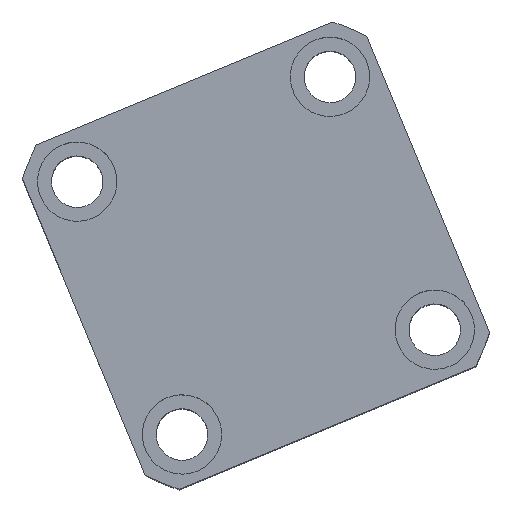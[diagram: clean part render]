
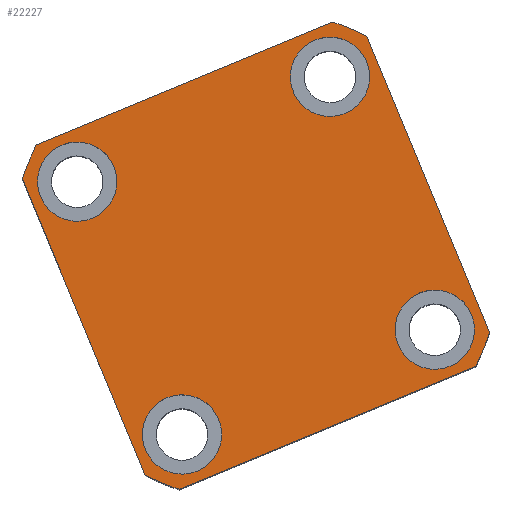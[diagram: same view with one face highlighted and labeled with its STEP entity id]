
A CAD part, top view. The second image highlights one B-rep face of the part: STEP entity #22227.
In plain terms, the highlighted planar face has unit normal (0, 0, 1) as drawn and (0, 0, -1) by its records, which use the part's own axes.
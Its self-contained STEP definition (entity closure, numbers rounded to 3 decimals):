
#268 = EDGE_CURVE ( 'NONE', #9698, #5699, #11622, .T. ) ;
#284 = DIRECTION ( 'NONE',  ( -1., 0., 0. ) ) ;
#306 = LINE ( 'NONE', #21022, #13489 ) ;
#328 = DIRECTION ( 'NONE',  ( 0., 0., -1. ) ) ;
#496 = VERTEX_POINT ( 'NONE', #9832 ) ;
#631 = FACE_BOUND ( 'NONE', #22385, .T. ) ;
#833 = ORIENTED_EDGE ( 'NONE', *, *, #5626, .F. ) ;
#910 = VERTEX_POINT ( 'NONE', #7131 ) ;
#1082 = AXIS2_PLACEMENT_3D ( 'NONE', #17287, #6984, #19045 ) ;
#1176 = ORIENTED_EDGE ( 'NONE', *, *, #19137, .F. ) ;
#1206 = EDGE_CURVE ( 'NONE', #20960, #14597, #21095, .T. ) ;
#1268 = VERTEX_POINT ( 'NONE', #3041 ) ;
#1287 = DIRECTION ( 'NONE',  ( -1., 0., 0. ) ) ;
#1688 = AXIS2_PLACEMENT_3D ( 'NONE', #5602, #17662, #7351 ) ;
#1712 = CARTESIAN_POINT ( 'NONE',  ( 0., 0., 0. ) ) ;
#1973 = ORIENTED_EDGE ( 'NONE', *, *, #11297, .F. ) ;
#2304 = AXIS2_PLACEMENT_3D ( 'NONE', #9824, #21885, #11540 ) ;
#2387 = CARTESIAN_POINT ( 'NONE',  ( -44.5, 34.5, 0. ) ) ;
#2741 = VERTEX_POINT ( 'NONE', #10255 ) ;
#2754 = CIRCLE ( 'NONE', #1688, 62. ) ;
#2811 = DIRECTION ( 'NONE',  ( 0., 0., 1. ) ) ;
#3035 = DIRECTION ( 'NONE',  ( 0., 0., -1. ) ) ;
#3041 = CARTESIAN_POINT ( 'NONE',  ( 44.5, 34.5, 0. ) ) ;
#3440 = DIRECTION ( 'NONE',  ( 1., 0., 0. ) ) ;
#3590 = VECTOR ( 'NONE', #8017, 1000. ) ;
#3785 = ORIENTED_EDGE ( 'NONE', *, *, #15414, .F. ) ;
#3936 = EDGE_LOOP ( 'NONE', ( #5573, #22117, #833, #4993, #16394, #16334, #3785, #4881 ) ) ;
#4137 = FACE_OUTER_BOUND ( 'NONE', #3936, .T. ) ;
#4155 = CARTESIAN_POINT ( 'NONE',  ( -34.5, -34.5, 0. ) ) ;
#4232 = CARTESIAN_POINT ( 'NONE',  ( 0., 0., 0. ) ) ;
#4455 = CARTESIAN_POINT ( 'NONE',  ( 47., 40.435, 0. ) ) ;
#4846 = AXIS2_PLACEMENT_3D ( 'NONE', #21971, #11621, #1287 ) ;
#4881 = ORIENTED_EDGE ( 'NONE', *, *, #22290, .F. ) ;
#4902 = ORIENTED_EDGE ( 'NONE', *, *, #14269, .F. ) ;
#4993 = ORIENTED_EDGE ( 'NONE', *, *, #18738, .F. ) ;
#5144 = CARTESIAN_POINT ( 'NONE',  ( 0., 0., 0. ) ) ;
#5573 = ORIENTED_EDGE ( 'NONE', *, *, #14535, .F. ) ;
#5602 = CARTESIAN_POINT ( 'NONE',  ( 0., 0., 0. ) ) ;
#5626 = EDGE_CURVE ( 'NONE', #14689, #9698, #9747, .T. ) ;
#5699 = VERTEX_POINT ( 'NONE', #4455 ) ;
#5901 = DIRECTION ( 'NONE',  ( -1., 0., 0. ) ) ;
#5977 = DIRECTION ( 'NONE',  ( 1., 0., 0. ) ) ;
#6289 = CARTESIAN_POINT ( 'NONE',  ( -47., 47., 0. ) ) ;
#6356 = VERTEX_POINT ( 'NONE', #11291 ) ;
#6663 = CARTESIAN_POINT ( 'NONE',  ( 47., 47., 0. ) ) ;
#6673 = VERTEX_POINT ( 'NONE', #8514 ) ;
#6744 = CIRCLE ( 'NONE', #1082, 10. ) ;
#6895 = DIRECTION ( 'NONE',  ( 1., 0., 0. ) ) ;
#6984 = DIRECTION ( 'NONE',  ( 0., 0., -1. ) ) ;
#7131 = CARTESIAN_POINT ( 'NONE',  ( -44.5, -34.5, 0. ) ) ;
#7315 = DIRECTION ( 'NONE',  ( 0., 0., -1. ) ) ;
#7351 = DIRECTION ( 'NONE',  ( 1., 0., 0. ) ) ;
#7502 = ORIENTED_EDGE ( 'NONE', *, *, #10056, .F. ) ;
#7714 = EDGE_LOOP ( 'NONE', ( #1973, #4902 ) ) ;
#8017 = DIRECTION ( 'NONE',  ( -1., 0., 0. ) ) ;
#8205 = AXIS2_PLACEMENT_3D ( 'NONE', #20964, #10618, #284 ) ;
#8413 = VERTEX_POINT ( 'NONE', #13732 ) ;
#8418 = EDGE_CURVE ( 'NONE', #6356, #910, #6744, .T. ) ;
#8514 = CARTESIAN_POINT ( 'NONE',  ( -40.435, -47., 0. ) ) ;
#8723 = FACE_BOUND ( 'NONE', #13499, .T. ) ;
#8873 = CIRCLE ( 'NONE', #9299, 10. ) ;
#8954 = DIRECTION ( 'NONE',  ( 1., 0., 0. ) ) ;
#8998 = ORIENTED_EDGE ( 'NONE', *, *, #22354, .F. ) ;
#9299 = AXIS2_PLACEMENT_3D ( 'NONE', #13349, #3035, #15081 ) ;
#9692 = CARTESIAN_POINT ( 'NONE',  ( 24.5, -34.5, 0. ) ) ;
#9698 = VERTEX_POINT ( 'NONE', #21777 ) ;
#9747 = CIRCLE ( 'NONE', #10169, 62. ) ;
#9773 = CIRCLE ( 'NONE', #20939, 10. ) ;
#9824 = CARTESIAN_POINT ( 'NONE',  ( 34.5, 34.5, 0. ) ) ;
#9832 = CARTESIAN_POINT ( 'NONE',  ( -24.5, 34.5, 0. ) ) ;
#10056 = EDGE_CURVE ( 'NONE', #18409, #15968, #11825, .T. ) ;
#10169 = AXIS2_PLACEMENT_3D ( 'NONE', #4232, #16292, #5977 ) ;
#10232 = VERTEX_POINT ( 'NONE', #2387 ) ;
#10255 = CARTESIAN_POINT ( 'NONE',  ( -40.435, 47., 0. ) ) ;
#10480 = ORIENTED_EDGE ( 'NONE', *, *, #21011, .F. ) ;
#10618 = DIRECTION ( 'NONE',  ( 0., 0., -1. ) ) ;
#10655 = CARTESIAN_POINT ( 'NONE',  ( 34.5, 34.5, 0. ) ) ;
#11291 = CARTESIAN_POINT ( 'NONE',  ( -24.5, -34.5, 0. ) ) ;
#11297 = EDGE_CURVE ( 'NONE', #10232, #496, #8873, .T. ) ;
#11342 = CIRCLE ( 'NONE', #12940, 10. ) ;
#11442 = CARTESIAN_POINT ( 'NONE',  ( 44.5, -34.5, 0. ) ) ;
#11540 = DIRECTION ( 'NONE',  ( -1., 0., 0. ) ) ;
#11621 = DIRECTION ( 'NONE',  ( 0., 0., -1. ) ) ;
#11622 = LINE ( 'NONE', #6663, #20826 ) ;
#11825 = CIRCLE ( 'NONE', #15919, 10. ) ;
#12001 = CARTESIAN_POINT ( 'NONE',  ( 24.5, 34.5, 0. ) ) ;
#12216 = CIRCLE ( 'NONE', #2304, 10. ) ;
#12383 = DIRECTION ( 'NONE',  ( -1., 0., 0. ) ) ;
#12940 = AXIS2_PLACEMENT_3D ( 'NONE', #4155, #16204, #5901 ) ;
#13118 = CARTESIAN_POINT ( 'NONE',  ( 0., 0., 0. ) ) ;
#13275 = FACE_BOUND ( 'NONE', #13892, .T. ) ;
#13349 = CARTESIAN_POINT ( 'NONE',  ( -34.5, 34.5, 0. ) ) ;
#13489 = VECTOR ( 'NONE', #8954, 1000. ) ;
#13499 = EDGE_LOOP ( 'NONE', ( #1176, #14945 ) ) ;
#13732 = CARTESIAN_POINT ( 'NONE',  ( 40.435, 47., 0. ) ) ;
#13753 = DIRECTION ( 'NONE',  ( 0., 0., 1. ) ) ;
#13892 = EDGE_LOOP ( 'NONE', ( #8998, #10480 ) ) ;
#14269 = EDGE_CURVE ( 'NONE', #496, #10232, #15552, .T. ) ;
#14535 = EDGE_CURVE ( 'NONE', #5699, #8413, #19084, .T. ) ;
#14550 = VERTEX_POINT ( 'NONE', #12001 ) ;
#14597 = VERTEX_POINT ( 'NONE', #18948 ) ;
#14689 = VERTEX_POINT ( 'NONE', #21152 ) ;
#14849 = DIRECTION ( 'NONE',  ( 1., 0., 0. ) ) ;
#14945 = ORIENTED_EDGE ( 'NONE', *, *, #8418, .F. ) ;
#15081 = DIRECTION ( 'NONE',  ( -1., 0., 0. ) ) ;
#15239 = AXIS2_PLACEMENT_3D ( 'NONE', #5144, #17191, #6895 ) ;
#15414 = EDGE_CURVE ( 'NONE', #2741, #20960, #2754, .T. ) ;
#15552 = CIRCLE ( 'NONE', #4846, 10. ) ;
#15919 = AXIS2_PLACEMENT_3D ( 'NONE', #17632, #7315, #19373 ) ;
#15968 = VERTEX_POINT ( 'NONE', #11442 ) ;
#16204 = DIRECTION ( 'NONE',  ( 0., 0., -1. ) ) ;
#16237 = EDGE_CURVE ( 'NONE', #15968, #18409, #20280, .T. ) ;
#16292 = DIRECTION ( 'NONE',  ( 0., 0., 1. ) ) ;
#16334 = ORIENTED_EDGE ( 'NONE', *, *, #1206, .F. ) ;
#16394 = ORIENTED_EDGE ( 'NONE', *, *, #19771, .F. ) ;
#17191 = DIRECTION ( 'NONE',  ( 0., 0., 1. ) ) ;
#17269 = CIRCLE ( 'NONE', #21782, 62. ) ;
#17287 = CARTESIAN_POINT ( 'NONE',  ( -34.5, -34.5, 0. ) ) ;
#17632 = CARTESIAN_POINT ( 'NONE',  ( 34.5, -34.5, 0. ) ) ;
#17662 = DIRECTION ( 'NONE',  ( 0., 0., 1. ) ) ;
#17899 = FACE_BOUND ( 'NONE', #7714, .T. ) ;
#18409 = VERTEX_POINT ( 'NONE', #9692 ) ;
#18514 = DIRECTION ( 'NONE',  ( 0., -1., 0. ) ) ;
#18738 = EDGE_CURVE ( 'NONE', #6673, #14689, #306, .T. ) ;
#18948 = CARTESIAN_POINT ( 'NONE',  ( -47., -40.435, 0. ) ) ;
#18960 = DIRECTION ( 'NONE',  ( 0., 1., 0. ) ) ;
#19045 = DIRECTION ( 'NONE',  ( -1., 0., 0. ) ) ;
#19084 = CIRCLE ( 'NONE', #15239, 62. ) ;
#19137 = EDGE_CURVE ( 'NONE', #910, #6356, #11342, .T. ) ;
#19181 = CARTESIAN_POINT ( 'NONE',  ( -47., 40.435, 0. ) ) ;
#19373 = DIRECTION ( 'NONE',  ( -1., 0., 0. ) ) ;
#19771 = EDGE_CURVE ( 'NONE', #14597, #6673, #17269, .T. ) ;
#19882 = ORIENTED_EDGE ( 'NONE', *, *, #16237, .F. ) ;
#20280 = CIRCLE ( 'NONE', #8205, 10. ) ;
#20826 = VECTOR ( 'NONE', #18960, 1000. ) ;
#20939 = AXIS2_PLACEMENT_3D ( 'NONE', #10655, #328, #12383 ) ;
#20960 = VERTEX_POINT ( 'NONE', #19181 ) ;
#20964 = CARTESIAN_POINT ( 'NONE',  ( 34.5, -34.5, 0. ) ) ;
#21011 = EDGE_CURVE ( 'NONE', #1268, #14550, #9773, .T. ) ;
#21022 = CARTESIAN_POINT ( 'NONE',  ( -47., -47., 0. ) ) ;
#21095 = LINE ( 'NONE', #21983, #21620 ) ;
#21152 = CARTESIAN_POINT ( 'NONE',  ( 40.435, -47., 0. ) ) ;
#21620 = VECTOR ( 'NONE', #18514, 1000. ) ;
#21672 = PLANE ( 'NONE',  #22376 ) ;
#21777 = CARTESIAN_POINT ( 'NONE',  ( 47., -40.435, 0. ) ) ;
#21782 = AXIS2_PLACEMENT_3D ( 'NONE', #1712, #13753, #3440 ) ;
#21885 = DIRECTION ( 'NONE',  ( 0., 0., -1. ) ) ;
#21941 = LINE ( 'NONE', #6289, #3590 ) ;
#21971 = CARTESIAN_POINT ( 'NONE',  ( -34.5, 34.5, 0. ) ) ;
#21983 = CARTESIAN_POINT ( 'NONE',  ( -47., 47., 0. ) ) ;
#22117 = ORIENTED_EDGE ( 'NONE', *, *, #268, .F. ) ;
#22227 = ADVANCED_FACE ( 'NONE', ( #17899, #8723, #631, #13275, #4137 ), #21672, .F. ) ;
#22290 = EDGE_CURVE ( 'NONE', #8413, #2741, #21941, .T. ) ;
#22354 = EDGE_CURVE ( 'NONE', #14550, #1268, #12216, .T. ) ;
#22376 = AXIS2_PLACEMENT_3D ( 'NONE', #13118, #2811, #14849 ) ;
#22385 = EDGE_LOOP ( 'NONE', ( #7502, #19882 ) ) ;
